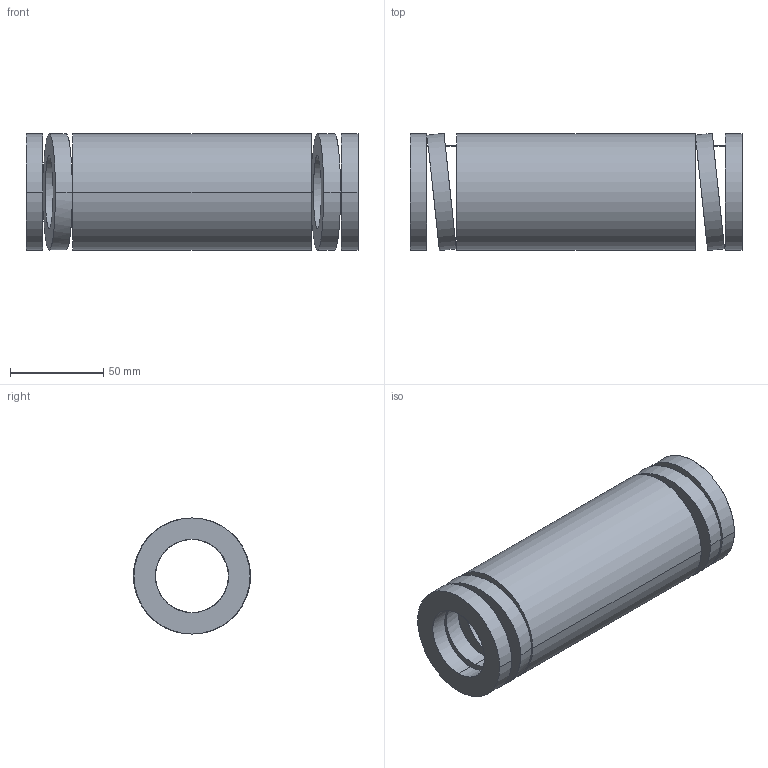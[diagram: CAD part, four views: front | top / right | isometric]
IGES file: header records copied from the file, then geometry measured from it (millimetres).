
Start section: START RECORD GO HERE.
Global section: file name: 392-B63-178.igs; native system: DASSAULT SYSTEMES CATIA V5 R20 - www.3ds.com; preprocessor: CATIA Version 5 Release 20 ; author: Utente; organization: NB04-ASUS; date: 20210813.134523; units: millimetre
Bounding box: 178 x 62.81 x 62.2 mm (x, y, z)
Surface area: 70630.6 mm2 (no closed solid volume)
Topology: 0 solids, 0 shells, 38 faces, 184 edges, 184 vertices
Faces by surface type: revolution 28, plane 10
